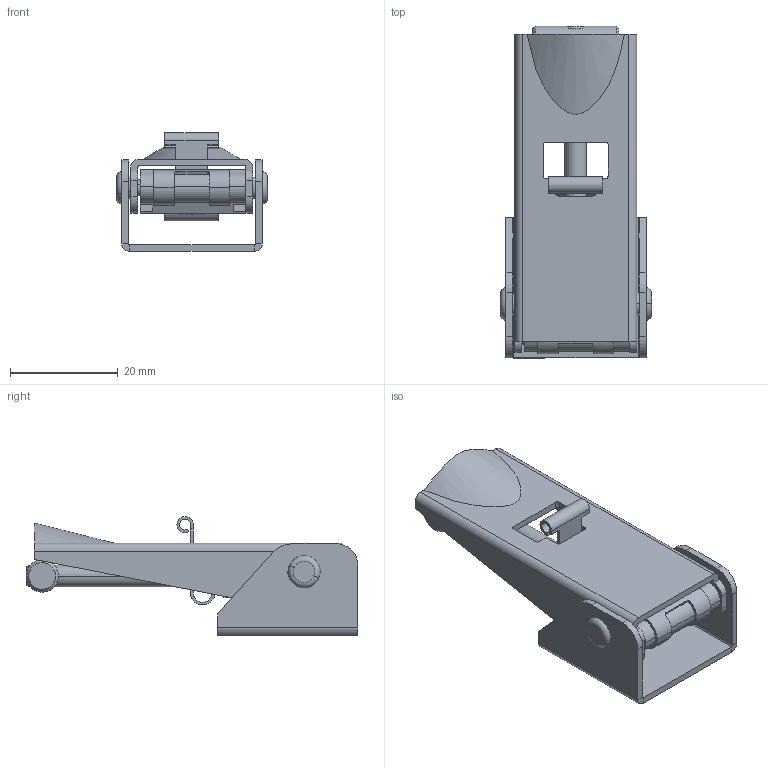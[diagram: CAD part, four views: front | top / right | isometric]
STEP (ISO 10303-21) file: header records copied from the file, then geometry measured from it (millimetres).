
FILE_DESCRIPTION (( 'STEP AP203' ), '1' );
FILE_NAME ('ST200.STEP', '2007-02-15T17:25:17', ( 'SlawekZ' ), ( 'RST' ), 'SwSTEP 2.0', 'SolidWorks 2004231', '' );
FILE_SCHEMA (( 'CONFIG_CONTROL_DESIGN' ));
Length unit declared in the file: millimetre
Products named in the file (9): 3B.ST200.06.00.00; 3B.ST200.08.00.00; 3B.ST200.05.00.00; 3B.ST200.04.00.00; 3B.ST200.02.00.00; 3B.ST200.03.00.00; 3B.ST200.07.00.00; 3B.ST200.01.00.00; ST200
Assembly tree (9 placements, depth 2):
  ST200
    3B.ST200.04.00.00
    3B.ST200.08.00.00  x2
    3B.ST200.06.00.00
    3B.ST200.01.00.00
    3B.ST200.03.00.00
    3B.ST200.07.00.00
    3B.ST200.02.00.00
    3B.ST200.05.00.00
Bounding box: 28 x 61.53 x 22.05 mm (x, y, z)
Volume: 3900.3 mm3; surface area: 11047.2 mm2
Topology: 8 solids, 10 shells, 228 faces, 581 edges, 369 vertices
Faces by surface type: plane 120, cylinder 87, bspline 9, cone 8, torus 4
Entity records: 8718 total; most frequent: CARTESIAN_POINT 2311, DIRECTION 1160, ORIENTED_EDGE 1114, EDGE_CURVE 559, AXIS2_PLACEMENT_3D 402, VERTEX_POINT 357, VECTOR 356, LINE 356
